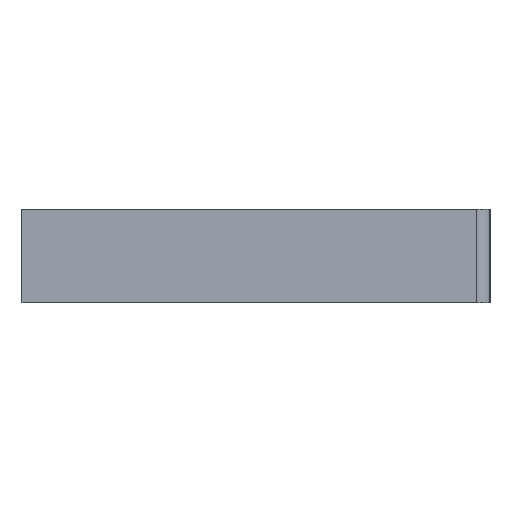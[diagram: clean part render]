
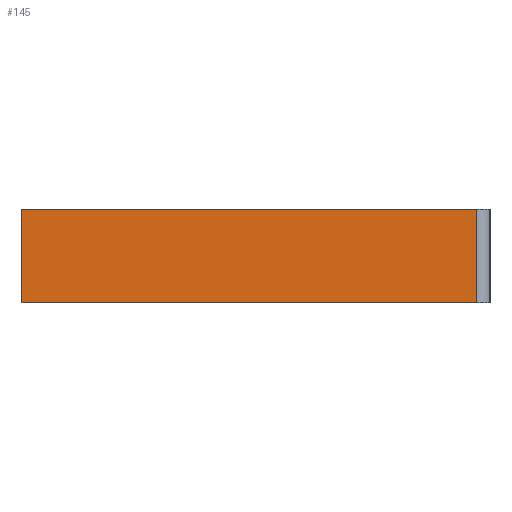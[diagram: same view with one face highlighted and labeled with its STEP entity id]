
A CAD part, left-side view. The second image highlights one B-rep face of the part: STEP entity #145.
In plain terms, the highlighted planar face has unit normal (-1, 0, 0).
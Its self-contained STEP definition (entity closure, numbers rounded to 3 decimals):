
#145 = ADVANCED_FACE( '', ( #365 ), #366, .T. );
#175 = VERTEX_POINT( '', #400 );
#177 = VERTEX_POINT( '', #402 );
#183 = VERTEX_POINT( '', #409 );
#193 = EDGE_CURVE( '', #177, #175, #419, .T. );
#289 = EDGE_CURVE( '', #177, #293, #524, .T. );
#293 = VERTEX_POINT( '', #530 );
#303 = EDGE_CURVE( '', #175, #183, #540, .T. );
#319 = EDGE_CURVE( '', #293, #183, #559, .T. );
#365 = FACE_OUTER_BOUND( '', #605, .T. );
#366 = PLANE( '', #606 );
#400 = CARTESIAN_POINT( '', ( -56., 0., -3.5 ) );
#402 = CARTESIAN_POINT( '', ( -56., 0., 3.5 ) );
#409 = CARTESIAN_POINT( '', ( -56., -34., -3.5 ) );
#419 = LINE( '', #676, #677 );
#524 = LINE( '', #820, #821 );
#530 = CARTESIAN_POINT( '', ( -56., -34., 3.5 ) );
#540 = LINE( '', #840, #841 );
#559 = LINE( '', #864, #865 );
#605 = EDGE_LOOP( '', ( #908, #909, #910, #911 ) );
#606 = AXIS2_PLACEMENT_3D( '', #912, #913, #914 );
#676 = CARTESIAN_POINT( '', ( -56., 0., 3.5 ) );
#677 = VECTOR( '', #977, 1. );
#820 = CARTESIAN_POINT( '', ( -56., 0., 3.5 ) );
#821 = VECTOR( '', #1087, 1. );
#840 = CARTESIAN_POINT( '', ( -56., 0., -3.5 ) );
#841 = VECTOR( '', #1099, 1. );
#864 = CARTESIAN_POINT( '', ( -56., -34., 3.5 ) );
#865 = VECTOR( '', #1128, 1. );
#908 = ORIENTED_EDGE( '', *, *, #303, .T. );
#909 = ORIENTED_EDGE( '', *, *, #319, .F. );
#910 = ORIENTED_EDGE( '', *, *, #289, .F. );
#911 = ORIENTED_EDGE( '', *, *, #193, .T. );
#912 = CARTESIAN_POINT( '', ( -56., 0., 3.5 ) );
#913 = DIRECTION( '', ( -1., 0., 0. ) );
#914 = DIRECTION( '', ( 0., 1., 0. ) );
#977 = DIRECTION( '', ( 0., 0., -1. ) );
#1087 = DIRECTION( '', ( 0., -1., 0. ) );
#1099 = DIRECTION( '', ( 0., -1., 0. ) );
#1128 = DIRECTION( '', ( 0., 0., -1. ) );
